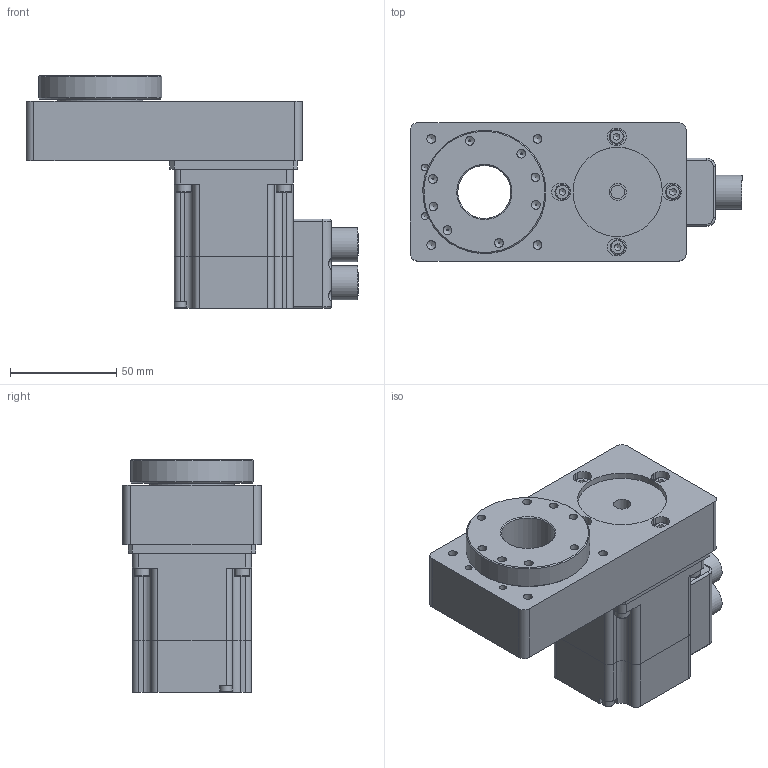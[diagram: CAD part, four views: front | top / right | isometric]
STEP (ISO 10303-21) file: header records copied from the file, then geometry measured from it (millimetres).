
FILE_DESCRIPTION((''),'2;1');
FILE_NAME('C:\Users\disegnatore3\Desktop\3D\TAVOLE ROTANTI\ROTAC PLUS\ROTAC PLUS 65\FORMADO CAD\ROTAC PLUS 65.stp','2017-01-17T14:59:53',('disegnatore3'),(''),'Autodesk Inventor 2012','Autodesk Inventor 2012','');
FILE_SCHEMA(('AUTOMOTIVE_DESIGN { 1 0 10303 214 1 1 1 1 }'));
Length unit declared in the file: millimetre
Products named in the file (7): ROTAC PLUS 65; C65P; PM85P; PI85; ISO 4762 M4 x 25; ISO 4762 M4 x 10; STEPPER MOTOR 23
Assembly tree (12 placements, depth 2):
  ROTAC PLUS 65
    C65P
    PM85P
    PI85
    ISO 4762 M4 x 25  x4
    ISO 4762 M4 x 10  x4
    STEPPER MOTOR 23
Bounding box: 156.2 x 65 x 109.5 mm (x, y, z)
Volume: 454393.8 mm3; surface area: 97081.4 mm2
Topology: 22 solids, 22 shells, 514 faces, 1179 edges, 759 vertices
Faces by surface type: plane 250, cylinder 175, cone 57, torus 32
Full cylindrical faces by diameter (mm): 0.5 x10, 2 x10, 2.013 x2, 2.459 x2, 3 x6, 3.2 x6, 3.242 x4, 4 x10, 4.134 x22, 4.5 x4, 5 x4, 5.5 x6, 6 x4, 6.35 x2, 7 x8, 8 x1, 12 x4, 14 x2, 16 x2, 25 x1, 38.1 x2, 40 x2, 42 x2, 58 x1
Entity records: 11651 total; most frequent: CARTESIAN_POINT 1995, DIRECTION 1982, ORIENTED_EDGE 1558, AXIS2_PLACEMENT_3D 812, EDGE_CURVE 779, EDGE_LOOP 700, VERTEX_POINT 593, FACE_OUTER_BOUND 424
